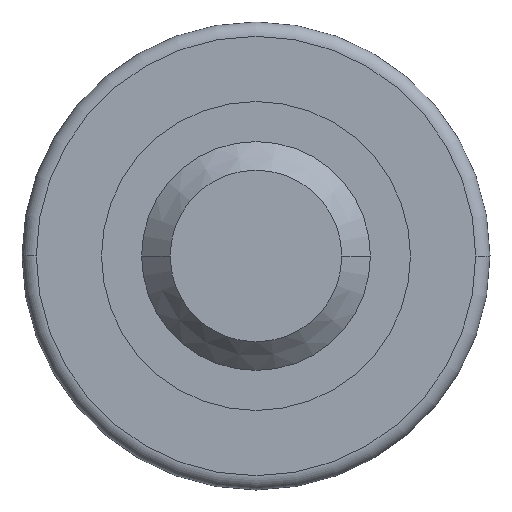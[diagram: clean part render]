
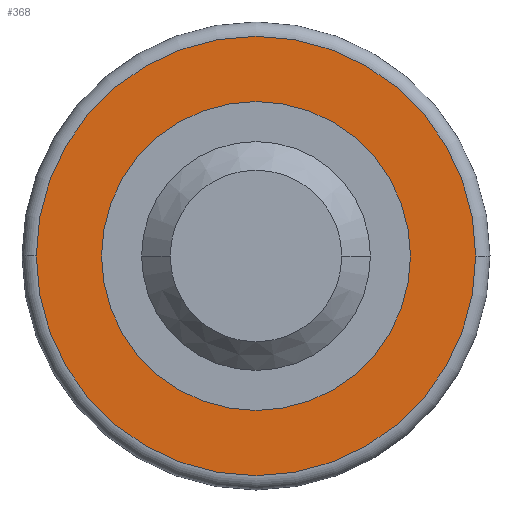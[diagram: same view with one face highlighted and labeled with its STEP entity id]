
A CAD part, left-side view. The second image highlights one B-rep face of the part: STEP entity #368.
In plain terms, the highlighted planar face has unit normal (-1, 0, 0).
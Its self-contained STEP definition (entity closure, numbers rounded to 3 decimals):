
#1 = DIRECTION ( 'NONE',  ( 0., 1., 0. ) ) ;
#13 = AXIS2_PLACEMENT_3D ( 'NONE', #453, #202, #351 ) ;
#47 = CARTESIAN_POINT ( 'NONE',  ( 22., 0., 0. ) ) ;
#55 = AXIS2_PLACEMENT_3D ( 'NONE', #142, #622, #62 ) ;
#62 = DIRECTION ( 'NONE',  ( 0., -1., 0. ) ) ;
#91 = PLANE ( 'NONE',  #13 ) ;
#101 = CARTESIAN_POINT ( 'NONE',  ( 22., 0., 0. ) ) ;
#142 = CARTESIAN_POINT ( 'NONE',  ( 22., 0., 0. ) ) ;
#146 = DIRECTION ( 'NONE',  ( 1., 0., 0. ) ) ;
#154 = CARTESIAN_POINT ( 'NONE',  ( 22., -27., 0. ) ) ;
#156 = ORIENTED_EDGE ( 'NONE', *, *, #483, .T. ) ;
#186 = EDGE_LOOP ( 'NONE', ( #226, #156 ) ) ;
#202 = DIRECTION ( 'NONE',  ( -1., 0., 0. ) ) ;
#214 = DIRECTION ( 'NONE',  ( 0., -1., 0. ) ) ;
#226 = ORIENTED_EDGE ( 'NONE', *, *, #344, .T. ) ;
#240 = VERTEX_POINT ( 'NONE', #672 ) ;
#269 = AXIS2_PLACEMENT_3D ( 'NONE', #580, #631, #1 ) ;
#279 = EDGE_CURVE ( 'NONE', #646, #240, #326, .T. ) ;
#285 = CARTESIAN_POINT ( 'NONE',  ( 22., 27., 0. ) ) ;
#291 = FACE_BOUND ( 'NONE', #186, .T. ) ;
#326 = CIRCLE ( 'NONE', #556, 38.4 ) ;
#340 = FACE_OUTER_BOUND ( 'NONE', #386, .T. ) ;
#344 = EDGE_CURVE ( 'NONE', #517, #651, #570, .T. ) ;
#351 = DIRECTION ( 'NONE',  ( 0., -1., 0. ) ) ;
#368 = ADVANCED_FACE ( 'NONE', ( #340, #291 ), #91, .T. ) ;
#386 = EDGE_LOOP ( 'NONE', ( #684, #569 ) ) ;
#402 = EDGE_CURVE ( 'NONE', #240, #646, #608, .T. ) ;
#453 = CARTESIAN_POINT ( 'NONE',  ( 22., 40.9, 0. ) ) ;
#456 = CARTESIAN_POINT ( 'NONE',  ( 22., -38.4, 0. ) ) ;
#483 = EDGE_CURVE ( 'NONE', #651, #517, #692, .T. ) ;
#517 = VERTEX_POINT ( 'NONE', #285 ) ;
#555 = AXIS2_PLACEMENT_3D ( 'NONE', #101, #146, #565 ) ;
#556 = AXIS2_PLACEMENT_3D ( 'NONE', #47, #574, #214 ) ;
#565 = DIRECTION ( 'NONE',  ( 0., 1., 0. ) ) ;
#569 = ORIENTED_EDGE ( 'NONE', *, *, #402, .T. ) ;
#570 = CIRCLE ( 'NONE', #555, 27. ) ;
#574 = DIRECTION ( 'NONE',  ( -1., 0., 0. ) ) ;
#580 = CARTESIAN_POINT ( 'NONE',  ( 22., 0., 0. ) ) ;
#608 = CIRCLE ( 'NONE', #55, 38.4 ) ;
#622 = DIRECTION ( 'NONE',  ( -1., 0., 0. ) ) ;
#631 = DIRECTION ( 'NONE',  ( 1., 0., 0. ) ) ;
#646 = VERTEX_POINT ( 'NONE', #456 ) ;
#651 = VERTEX_POINT ( 'NONE', #154 ) ;
#672 = CARTESIAN_POINT ( 'NONE',  ( 22., 38.4, 0. ) ) ;
#684 = ORIENTED_EDGE ( 'NONE', *, *, #279, .T. ) ;
#692 = CIRCLE ( 'NONE', #269, 27. ) ;
